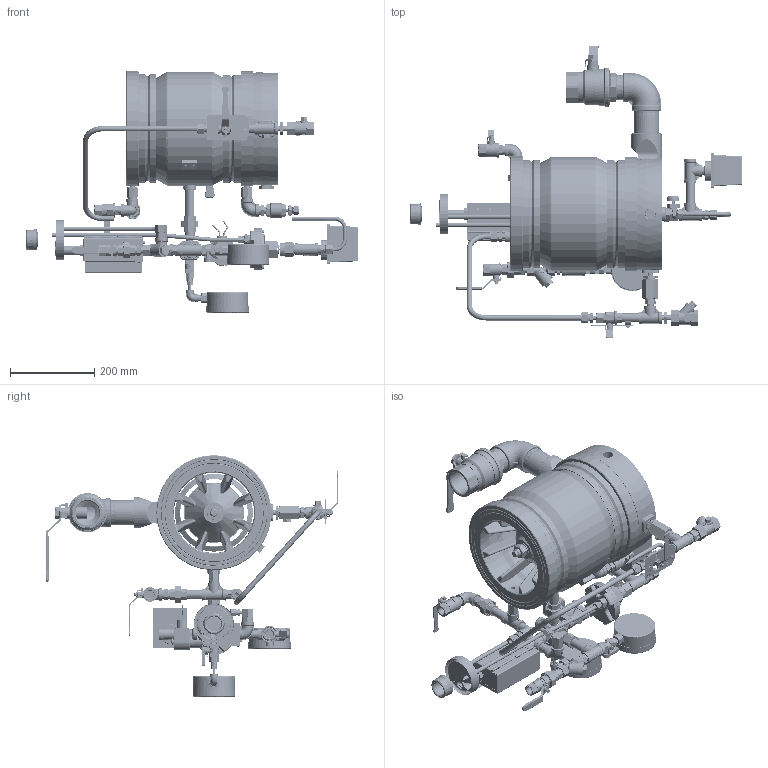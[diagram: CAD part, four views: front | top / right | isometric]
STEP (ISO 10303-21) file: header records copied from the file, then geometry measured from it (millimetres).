
FILE_DESCRIPTION(/* description */ (''),/* implementation_level */ '2;1');
FILE_NAME(/* name */ '799DX-04K01 FM Trim 8in.stp',/* time_stamp */ '2024-02-11T15:09:06+02:00',/* author */ ('alex'),/* organization */ (''),/* preprocessor_version */ 'ST-DEVELOPER v20',/* originating_system */ 'Autodesk Inventor 2024',/* authorisation */ '');
FILE_SCHEMA (('AUTOMOTIVE_DESIGN { 1 0 10303 214 3 1 1 }'));
Length unit declared in the file: millimetre
Products named in the file (1): 799DX-04K01 FM Trim 8in STEP
Bounding box: 788.4 x 693.8 x 573.32 mm (x, y, z)
Volume: 11565307.9 mm3; surface area: 2434814.6 mm2
Topology: 12 solids, 62 shells, 6110 faces, 15132 edges, 9552 vertices
Faces by surface type: plane 3003, cone 1195, cylinder 1126, bspline 575, torus 201, sphere 10
Full cylindrical faces by diameter (mm): 1.5 x4, 2 x7, 3 x14, 3.7 x2, 4 x24, 4.1 x2, 4.134 x2, 4.2 x4, 4.7 x1, 4.8 x1, 4.978 x6, 5 x32, 5.2 x10, 5.3 x1, 5.5 x4, 6 x6, 6.2 x1, 6.33 x4, 6.35 x2, 6.4 x4, 6.5 x7, 7 x13, 7.036 x8, 7.3 x1, 7.515 x4, 7.6 x3, 8 x5, 8.1 x1, 8.3 x1, 8.376 x1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
Entity records: 217784 total; most frequent: CARTESIAN_POINT 72844, ORIENTED_EDGE 30112, DIRECTION 27353, EDGE_CURVE 15056, AXIS2_PLACEMENT_3D 10113, VERTEX_POINT 9505, LINE 7127, VECTOR 7127
